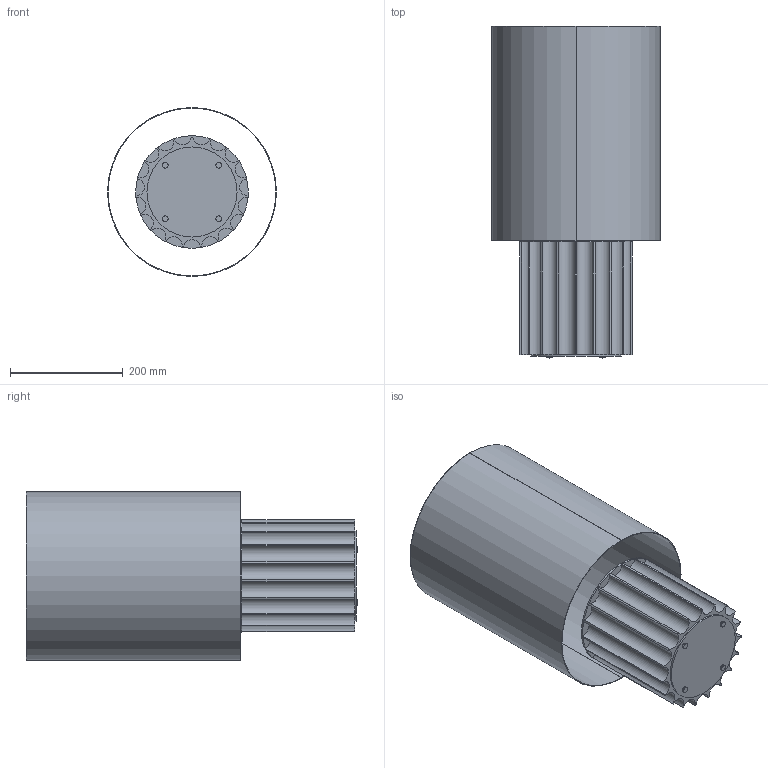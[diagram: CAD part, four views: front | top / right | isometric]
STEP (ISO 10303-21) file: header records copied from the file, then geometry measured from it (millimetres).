
FILE_DESCRIPTION (( 'STEP AP214' ), '1' );
FILE_NAME ('DENA_NAC136.STEP', '2024-09-18T07:26:39', ( '' ), ( '' ), 'SwSTEP 2.0', 'SolidWorks 2018', '' );
FILE_SCHEMA (( 'AUTOMOTIVE_DESIGN' ));
Length unit declared in the file: millimetre
Products named in the file (1): DENA_NAC136
Bounding box: 300 x 589.01 x 300 mm (x, y, z)
Volume: 2312548 mm3; surface area: 1140007.4 mm2
Topology: 8 solids, 8 shells, 89 faces, 211 edges, 140 vertices
Faces by surface type: cylinder 69, plane 18, torus 2
Entity records: 2756 total; most frequent: DIRECTION 533, CARTESIAN_POINT 441, ORIENTED_EDGE 422, AXIS2_PLACEMENT_3D 232, EDGE_CURVE 211, CIRCLE 142, VERTEX_POINT 140, EDGE_LOOP 95
